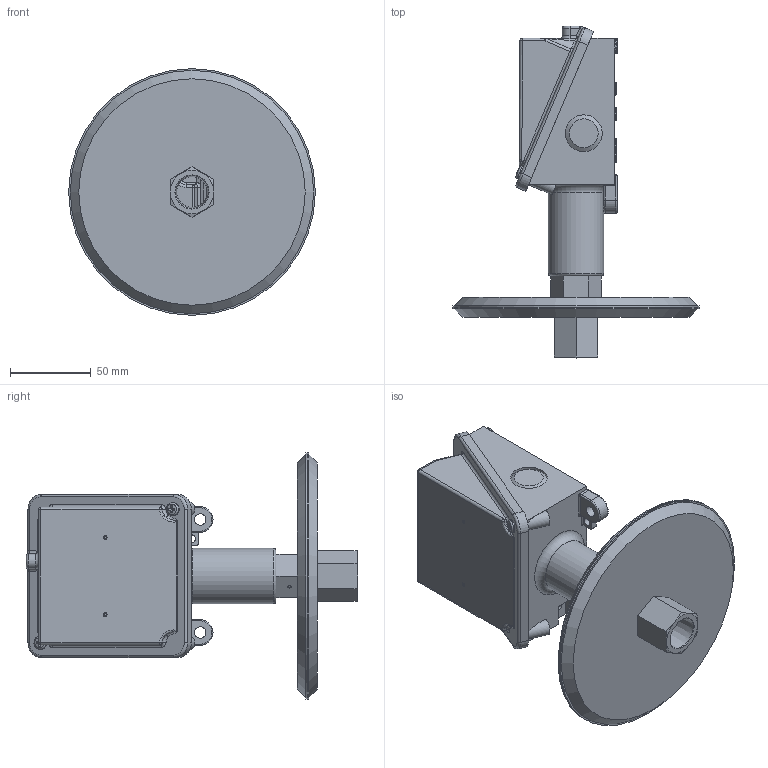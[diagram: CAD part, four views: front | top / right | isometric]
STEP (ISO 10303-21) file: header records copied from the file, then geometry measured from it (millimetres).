
FILE_DESCRIPTION (( 'STEP AP214' ), '1' );
FILE_NAME ('H100-530_535_V1.STEP', '2025-02-28T13:34:52', ( '' ), ( '' ), 'SwSTEP 2.0', 'SolidWorks 2023', '' );
FILE_SCHEMA (( 'AUTOMOTIVE_DESIGN' ));
Length unit declared in the file: inch
Products named in the file (1): H100-530_535_V1
Bounding box: 152.4 x 205.16 x 152.4 mm (x, y, z)
Surface area: 96653.6 mm2 (no closed solid volume)
Topology: 0 solids, 10 shells, 259 faces, 654 edges, 401 vertices
Faces by surface type: plane 89, cylinder 89, torus 42, cone 15, bspline 14, sphere 10
Full cylindrical faces by diameter (mm): 1.321 x2, 1.575 x1, 3.797 x1, 4.763 x1, 7.112 x2, 7.937 x2, 7.938 x2, 8.179 x2, 9.525 x2, 22.733 x2, 34.131 x1, 152.4 x3
Entity records: 8036 total; most frequent: CARTESIAN_POINT 2130, DIRECTION 1286, ORIENTED_EDGE 1090, EDGE_CURVE 600, AXIS2_PLACEMENT_3D 518, VERTEX_POINT 395, EDGE_LOOP 334, FACE_OUTER_BOUND 296
